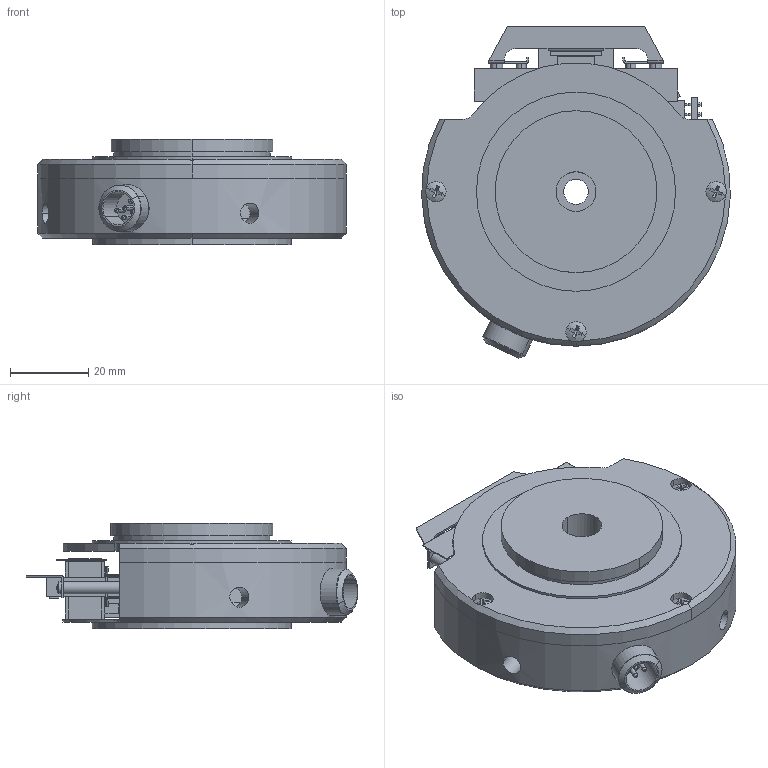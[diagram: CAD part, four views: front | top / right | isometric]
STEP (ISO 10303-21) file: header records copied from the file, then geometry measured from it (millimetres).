
FILE_DESCRIPTION (( 'STEP AP214' ), '1' );
FILE_NAME ('NO LSR 3D Model Housed.STEP', '2013-12-30T15:44:21', ( 'helen' ), ( 'Microsoft' ), 'SwSTEP 2.0', 'SolidWorks 2010', '' );
FILE_SCHEMA (( 'AUTOMOTIVE_DESIGN' ));
Length unit declared in the file: inch
Products named in the file (1): NO LSR 3D Model Housed
Bounding box: 78.71 x 84.65 x 26.8 mm (x, y, z)
Volume: 57361.8 mm3; surface area: 43754.7 mm2
Topology: 33 solids, 33 shells, 2525 faces, 6459 edges, 4004 vertices
Faces by surface type: cone 824, cylinder 796, plane 793, torus 94, sphere 10, bspline 8
Entity records: 112217 total; most frequent: CARTESIAN_POINT 15676, DIRECTION 14381, ORIENTED_EDGE 12862, EDGE_CURVE 6431, AXIS2_PLACEMENT_3D 5628, VERTEX_POINT 4004, LINE 3125, VECTOR 3125
